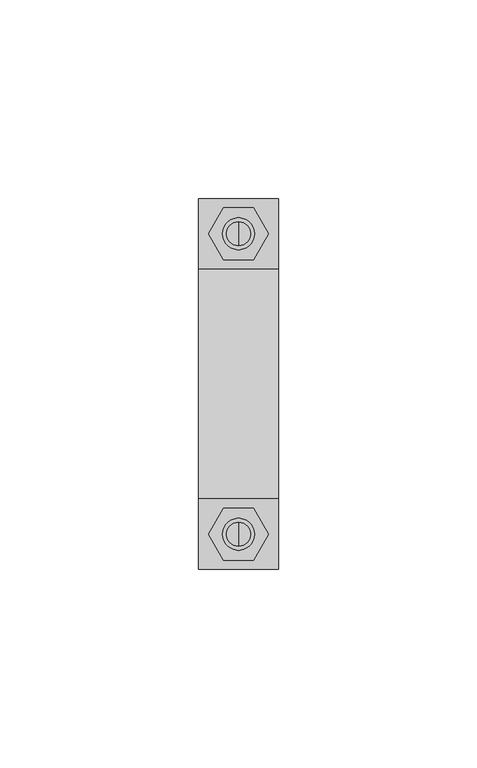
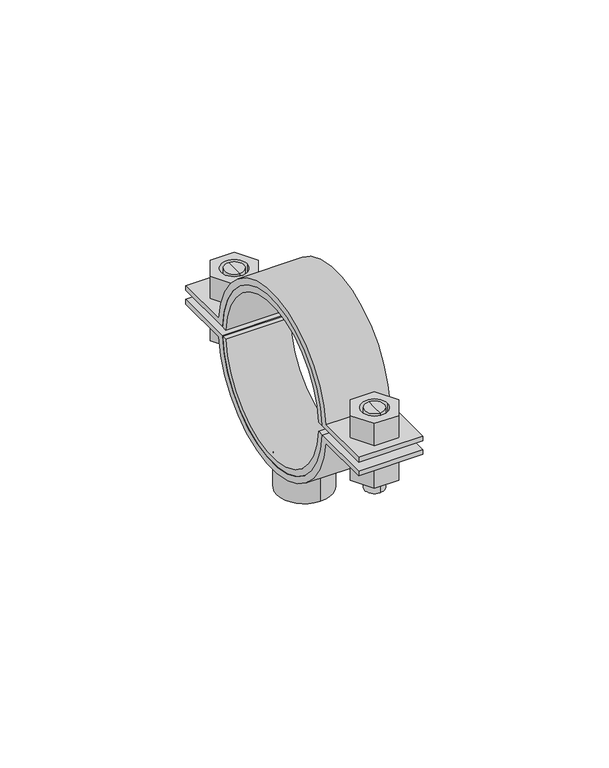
"""IFC4 building model written with IfcOpenShell, lengths in millimetres: valve geometry, Superfix DG2 Clamp Extra + : Superfix DG2 Clamp Extra +."""

from ifc_helpers import new_model, si_unit, point, frame, frame_2d, origin, origin_2d, place, context, project, spatial, polyline, circle_curve, trimmed, segment, composite_curve, outline, extrude, source, transform, mapped, element, save
from ifc_brep_helpers import plane_surface, cylinder_surface, advanced_brep


def valve_91093ba9(model_context):
    return source(origin(), model_context, "Body", "SolidModel", [
        advanced_brep(
        [(0.0, 40.75, 334.4), (0.0, 34.75, 334.4), (0.0, 34.75, 348.5), (0.0, 40.75, 348.5), (0.0, 37.75, 334.4)],
        [
            (0, 1, circle_curve(frame((0.0, 37.75, 334.4), z_axis=(0.0, 0.0, 1.0), x_axis=(0.0, 1.0, 0.0)), 3.0)),
            (1, 2),
            (2, 3, circle_curve(frame((0.0, 37.75, 348.5), z_axis=(0.0, 0.0, -1.0), x_axis=(0.0, 1.0, 0.0)), 3.0)),
            (3, 0),
            (1, 0, circle_curve(frame((0.0, 37.75, 334.4), z_axis=(0.0, 0.0, 1.0), x_axis=(0.0, 1.0, 0.0)), 3.0)),
            (3, 2, circle_curve(frame((0.0, 37.75, 348.5), z_axis=(0.0, 0.0, -1.0), x_axis=(0.0, 1.0, 0.0)), 3.0)),
            (0, 4),
            (4, 1),
        ],
        [
            cylinder_surface(frame((0.0, 37.75, 348.2806094), z_axis=(0.0, 0.0, 1.0), x_axis=(0.0, 1.0, 0.0)), 3.0),
            plane_surface(frame((0.0, 37.75, 334.4), z_axis=(0.0, 0.0, -1.0), x_axis=(0.0, 1.0, 0.0))),
            plane_surface(frame((13.75, -46.5, 348.5), z_axis=(0.0, 0.0, 1.0), x_axis=(-1.0, 0.0, 0.0))),
        ],
        [
            (0, [[1, 2, 3, 4]]),
            (0, [[5, -4, 6, -2]]),
            (1, [[-1, 7, 8]]),
            (1, [[-5, -8, -7]]),
            (2, [[-3, -6]]),
        ],
    ),
        advanced_brep(
        [(0.0, 34.75, 360.6), (0.0, 40.75, 360.6), (0.0, 40.75, 351.5), (0.0, 34.75, 351.5), (0.0, 37.75, 360.6)],
        [
            (0, 1, circle_curve(frame((0.0, 37.75, 360.6), z_axis=(0.0, 0.0, -1.0), x_axis=(0.0, 1.0, 0.0)), 3.0)),
            (1, 2),
            (2, 3, circle_curve(frame((0.0, 37.75, 351.5), z_axis=(0.0, 0.0, 1.0), x_axis=(0.0, 1.0, 0.0)), 3.0)),
            (3, 0),
            (1, 0, circle_curve(frame((0.0, 37.75, 360.6), z_axis=(0.0, 0.0, -1.0), x_axis=(0.0, 1.0, 0.0)), 3.0)),
            (3, 2, circle_curve(frame((0.0, 37.75, 351.5), z_axis=(0.0, 0.0, 1.0), x_axis=(0.0, 1.0, 0.0)), 3.0)),
            (0, 4),
            (4, 1),
        ],
        [
            cylinder_surface(frame((0.0, 37.75, 348.2806094), z_axis=(0.0, 0.0, 1.0), x_axis=(0.0, 1.0, 0.0)), 3.0),
            plane_surface(frame((0.0, 37.75, 360.6), z_axis=(0.0, 0.0, 1.0), x_axis=(0.0, 1.0, 0.0))),
            plane_surface(frame((13.75, 46.5, 351.5), z_axis=(0.0, 0.0, -1.0), x_axis=(-1.0, 0.0, 0.0))),
        ],
        [
            (0, [[1, 2, 3, 4]]),
            (0, [[5, -4, 6, -2]]),
            (1, [[-1, 7, 8]]),
            (1, [[-5, -8, -7]]),
            (2, [[-3, -6]]),
        ],
    ),
        advanced_brep(
        [(0.0, -40.75, 360.6), (0.0, -34.75, 360.6), (0.0, -34.75, 351.5), (0.0, -40.75, 351.5), (0.0, -37.75, 360.6)],
        [
            (0, 1, circle_curve(frame((0.0, -37.75, 360.6), z_axis=(0.0, 0.0, -1.0), x_axis=(0.0, -1.0, 0.0)), 3.0)),
            (1, 2),
            (2, 3, circle_curve(frame((0.0, -37.75, 351.5), z_axis=(0.0, 0.0, 1.0), x_axis=(0.0, -1.0, 0.0)), 3.0)),
            (3, 0),
            (1, 0, circle_curve(frame((0.0, -37.75, 360.6), z_axis=(0.0, 0.0, -1.0), x_axis=(0.0, -1.0, 0.0)), 3.0)),
            (3, 2, circle_curve(frame((0.0, -37.75, 351.5), z_axis=(0.0, 0.0, 1.0), x_axis=(0.0, -1.0, 0.0)), 3.0)),
            (0, 4),
            (4, 1),
        ],
        [
            cylinder_surface(frame((0.0, -37.75, 348.2806094), z_axis=(0.0, 0.0, -1.0), x_axis=(0.0, -1.0, 0.0)), 3.0),
            plane_surface(frame((0.0, -37.75, 360.6), z_axis=(0.0, 0.0, 1.0), x_axis=(0.0, -1.0, 0.0))),
            plane_surface(frame((13.75, 46.5, 351.5), z_axis=(0.0, 0.0, -1.0), x_axis=(-1.0, 0.0, 0.0))),
        ],
        [
            (0, [[1, 2, 3, 4]]),
            (0, [[5, -4, 6, -2]]),
            (1, [[-1, 7, 8]]),
            (1, [[-5, -8, -7]]),
            (2, [[-3, -6]]),
        ],
    ),
        advanced_brep(
        [(0.0, -34.75, 334.4), (0.0, -40.75, 334.4), (0.0, -40.75, 348.5), (0.0, -34.75, 348.5), (0.0, -37.75, 334.4)],
        [
            (0, 1, circle_curve(frame((0.0, -37.75, 334.4), z_axis=(0.0, 0.0, 1.0), x_axis=(0.0, -1.0, 0.0)), 3.0)),
            (1, 2),
            (2, 3, circle_curve(frame((0.0, -37.75, 348.5), z_axis=(0.0, 0.0, -1.0), x_axis=(0.0, -1.0, 0.0)), 3.0)),
            (3, 0),
            (1, 0, circle_curve(frame((0.0, -37.75, 334.4), z_axis=(0.0, 0.0, 1.0), x_axis=(0.0, -1.0, 0.0)), 3.0)),
            (3, 2, circle_curve(frame((0.0, -37.75, 348.5), z_axis=(0.0, 0.0, -1.0), x_axis=(0.0, -1.0, 0.0)), 3.0)),
            (0, 4),
            (4, 1),
        ],
        [
            cylinder_surface(frame((0.0, -37.75, 348.2806094), z_axis=(0.0, 0.0, -1.0), x_axis=(0.0, -1.0, 0.0)), 3.0),
            plane_surface(frame((0.0, -37.75, 334.4), z_axis=(0.0, 0.0, -1.0), x_axis=(0.0, -1.0, 0.0))),
            plane_surface(frame((13.75, -46.5, 348.5), z_axis=(0.0, 0.0, 1.0), x_axis=(-1.0, 0.0, 0.0))),
        ],
        [
            (0, [[1, 2, 3, 4]]),
            (0, [[5, -4, 6, -2]]),
            (1, [[-1, 7, 8]]),
            (1, [[-5, -8, -7]]),
            (2, [[-3, -6]]),
        ],
    ),
        extrude(outline(composite_curve([segment(trimmed(circle_curve(frame_2d((0.0, 350.0)), 27.0), [point((-26.9583011, 348.5))], [point((26.9583011, 348.5))], True, "CARTESIAN"), True, "CONTINUOUS"), segment(polyline([(26.9583011, 348.5), (46.5, 348.5), (46.5, 347.0), (28.8444102, 347.0)]), True, "CONTINUOUS"), segment(trimmed(circle_curve(frame_2d((0.0, 350.0)), 29.0), [point((28.8444102, 347.0))], [point((-28.8444102, 347.0))], False, "CARTESIAN"), True, "CONTINUOUS"), segment(polyline([(-28.8444102, 347.0), (-46.5, 347.0), (-46.5, 348.5), (-26.9583011, 348.5)]), True, "CONTINUOUS")], self_intersect=False)), frame((-10.0, 0.0, 0.0), z_axis=(1.0, 0.0, 0.0), x_axis=(0.0, 1.0, 0.0)), (0.0, 0.0, 1.0), 20.0),
        extrude(outline(composite_curve([segment(trimmed(circle_curve(frame_2d((0.0, 350.0)), 27.0), [point((26.9583011, 351.5))], [point((-26.9583011, 351.5))], True, "CARTESIAN"), True, "CONTINUOUS"), segment(polyline([(-26.9583011, 351.5), (-46.5, 351.5), (-46.5, 353.0), (-28.8444102, 353.0)]), True, "CONTINUOUS"), segment(trimmed(circle_curve(frame_2d((0.0, 350.0)), 29.0), [point((-28.8444102, 353.0))], [point((28.8444102, 353.0))], False, "CARTESIAN"), True, "CONTINUOUS"), segment(polyline([(28.8444102, 353.0), (46.5, 353.0), (46.5, 351.5), (26.9583011, 351.5)]), True, "CONTINUOUS")], self_intersect=False)), frame((-10.0, 0.0, 0.0), z_axis=(1.0, 0.0, 0.0), x_axis=(0.0, 1.0, 0.0)), (0.0, 0.0, 1.0), 20.0),
        extrude(outline(polyline([(7.5055535, -37.75), (3.7527767, -44.25), (-3.7527767, -44.25), (-7.5055535, -37.75), (-3.7527767, -31.25), (3.7527767, -31.25), (7.5055535, -37.75)]), holes=[composite_curve([segment(trimmed(circle_curve(frame_2d((0.0, -37.75)), 4.0), [point((4.0, -37.75))], [point((-4.0, -37.75))], True, "CARTESIAN"), True, "CONTINUOUS"), segment(trimmed(circle_curve(frame_2d((0.0, -37.75)), 4.0), [point((-4.0, -37.75))], [point((4.0, -37.75))], True, "CARTESIAN"), True, "CONTINUOUS")], self_intersect=False)]), frame((0.0, 0.0, 353.0), z_axis=(0.0, 0.0, 1.0), x_axis=(1.0, 0.0, 0.0)), (0.0, 0.0, 1.0), 7.6),
        extrude(outline(polyline([(7.5055535, 37.75), (3.7527767, 31.25), (-3.7527767, 31.25), (-7.5055535, 37.75), (-3.7527767, 44.25), (3.7527767, 44.25), (7.5055535, 37.75)]), holes=[composite_curve([segment(trimmed(circle_curve(frame_2d((0.0, 37.75)), 4.0), [point((4.0, 37.75))], [point((-4.0, 37.75))], True, "CARTESIAN"), True, "CONTINUOUS"), segment(trimmed(circle_curve(frame_2d((0.0, 37.75)), 4.0), [point((-4.0, 37.75))], [point((4.0, 37.75))], True, "CARTESIAN"), True, "CONTINUOUS")], self_intersect=False)]), frame((0.0, 0.0, 353.0), z_axis=(0.0, 0.0, 1.0), x_axis=(1.0, 0.0, 0.0)), (0.0, 0.0, 1.0), 7.6),
        extrude(outline(polyline([(7.5055535, -37.75), (3.7527767, -44.25), (-3.7527767, -44.25), (-7.5055535, -37.75), (-3.7527767, -31.25), (3.7527767, -31.25), (7.5055535, -37.75)]), holes=[composite_curve([segment(trimmed(circle_curve(frame_2d((0.0, -37.75)), 4.0), [point((4.0, -37.75))], [point((-4.0, -37.75))], True, "CARTESIAN"), True, "CONTINUOUS"), segment(trimmed(circle_curve(frame_2d((0.0, -37.75)), 4.0), [point((-4.0, -37.75))], [point((4.0, -37.75))], True, "CARTESIAN"), True, "CONTINUOUS")], self_intersect=False)]), frame((0.0, 0.0, 339.4), z_axis=(0.0, 0.0, 1.0), x_axis=(1.0, 0.0, 0.0)), (0.0, 0.0, 1.0), 7.6),
        extrude(outline(polyline([(7.5055535, 37.75), (3.7527767, 31.25), (-3.7527767, 31.25), (-7.5055535, 37.75), (-3.7527767, 44.25), (3.7527767, 44.25), (7.5055535, 37.75)]), holes=[composite_curve([segment(trimmed(circle_curve(frame_2d((0.0, 37.75)), 4.0), [point((4.0, 37.75))], [point((-4.0, 37.75))], True, "CARTESIAN"), True, "CONTINUOUS"), segment(trimmed(circle_curve(frame_2d((0.0, 37.75)), 4.0), [point((-4.0, 37.75))], [point((4.0, 37.75))], True, "CARTESIAN"), True, "CONTINUOUS")], self_intersect=False)]), frame((0.0, 0.0, 339.4), z_axis=(0.0, 0.0, 1.0), x_axis=(1.0, 0.0, 0.0)), (0.0, 0.0, 1.0), 7.6),
        extrude(outline(composite_curve([segment(trimmed(circle_curve(origin_2d(), 8.5), [point((0.0, 8.5))], [point((0.0, -8.5))], False, "CARTESIAN"), True, "CONTINUOUS"), segment(trimmed(circle_curve(origin_2d(), 8.5), [point((0.0, -8.5))], [point((0.0, 8.5))], False, "CARTESIAN"), True, "CONTINUOUS")], self_intersect=False), holes=[composite_curve([segment(trimmed(circle_curve(origin_2d(), 5.0), [point((0.0, 5.0))], [point((0.0, -5.0))], True, "CARTESIAN"), True, "CONTINUOUS"), segment(trimmed(circle_curve(origin_2d(), 5.0), [point((0.0, -5.0))], [point((0.0, 5.0))], True, "CARTESIAN"), True, "CONTINUOUS")], self_intersect=False)]), frame((0.0, 0.0, 312.0), z_axis=(0.0, 0.0, 1.0), x_axis=(1.0, 0.0, 0.0)), (0.0, 0.0, 1.0), 11.5),
        extrude(outline(composite_curve([segment(trimmed(circle_curve(frame_2d((0.0, 350.0)), 25.0), [point((24.9549594, 351.5))], [point((-24.9549594, 351.5))], True, "CARTESIAN"), True, "CONTINUOUS"), segment(polyline([(-24.9549594, 351.5), (-26.9583011, 351.5)]), True, "CONTINUOUS"), segment(trimmed(circle_curve(frame_2d((0.0, 350.0)), 27.0), [point((-26.9583011, 351.5))], [point((26.9583011, 351.5))], False, "CARTESIAN"), True, "CONTINUOUS"), segment(polyline([(26.9583011, 351.5), (24.9549594, 351.5)]), True, "CONTINUOUS")], self_intersect=False)), frame((-10.0, 0.0, 0.0), z_axis=(1.0, 0.0, 0.0), x_axis=(0.0, 1.0, 0.0)), (0.0, 0.0, 1.0), 20.0),
        extrude(outline(composite_curve([segment(polyline([(24.9549594, 348.5), (26.9583011, 348.5)]), True, "CONTINUOUS"), segment(trimmed(circle_curve(frame_2d((0.0, 350.0)), 27.0), [point((26.9583011, 348.5))], [point((-26.9583011, 348.5))], False, "CARTESIAN"), True, "CONTINUOUS"), segment(polyline([(-26.9583011, 348.5), (-24.9549594, 348.5)]), True, "CONTINUOUS"), segment(trimmed(circle_curve(frame_2d((0.0, 350.0)), 25.0), [point((-24.9549594, 348.5))], [point((24.9549594, 348.5))], True, "CARTESIAN"), True, "CONTINUOUS")], self_intersect=False)), frame((-10.0, 0.0, 0.0), z_axis=(1.0, 0.0, 0.0), x_axis=(0.0, 1.0, 0.0)), (0.0, 0.0, 1.0), 20.0),
    ])


if __name__ == "__main__":
    model = new_model("IFC4")
    model_context = context("Model", 3, world=origin())
    ifc_project = project(units=[si_unit("LENGTHUNIT", "METRE", prefix="MILLI")], contexts=[model_context])
    site = spatial("IfcSite", under=ifc_project)
    building = spatial("IfcBuilding", under=site)
    placement = place(None, origin())
    valve_shape = valve_91093ba9(model_context)
    element("IfcValve", 1, ObjectType="Superfix DG2 Clamp Extra + : Superfix DG2 Clamp Extra +", at=placement, inside=building, context=model_context, shape_type="MappedRepresentation", body=[
        mapped(valve_shape, transform((0.0, 0.0, 0.0), x_axis=(1.0, 0.0, 0.0), y_axis=(0.0, 1.0, 0.0), z_axis=(0.0, 0.0, 1.0))),
    ])
    save(model, "model.ifc")
